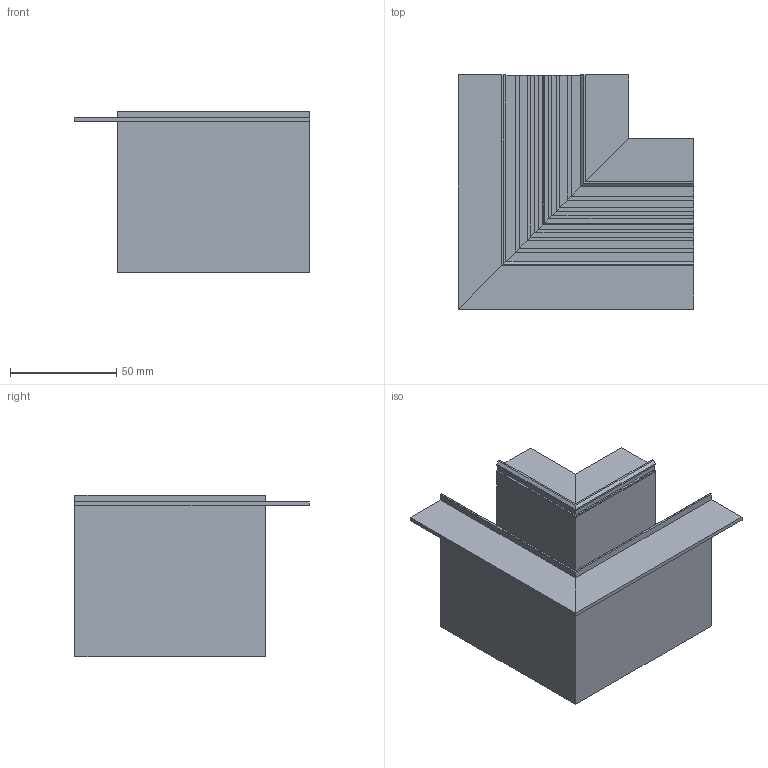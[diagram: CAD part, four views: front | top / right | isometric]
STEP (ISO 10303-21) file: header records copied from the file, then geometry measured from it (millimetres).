
FILE_DESCRIPTION(/* description */ (''),/* implementation_level */ '2;1');
FILE_NAME(/* name */ 'C:\Users\Franco Sartori E\Documents\FARO\DUPLICADO\Modelos\01_Digitalizados\PRIORIZACION 2D\1_NESO\03_Publicación\5020221002.stp',/* time_stamp */ '2021-01-20T10:48:45+01:00',/* author */ ('Franco Sartori E'),/* organization */ (''),/* preprocessor_version */ 'ST-DEVELOPER v18.1',/* originating_system */ 'AutoCAD Mechanical',/* authorisation */ '');
FILE_SCHEMA (('AUTOMOTIVE_DESIGN { 1 0 10303 214 3 1 1 }'));
Length unit declared in the file: millimetre
Products named in the file (2): Product; 5020221002_ 5020221002D - LAMP-510741-Export
Assembly tree (1 placements, depth 2):
  Product
    5020221002_ 5020221002D - LAMP-510741-Export
Bounding box: 110.6 x 110 x 76 mm (x, y, z)
Volume: 85209.5 mm3; surface area: 87903.5 mm2
Topology: 6 solids, 6 shells, 232 faces, 660 edges, 440 vertices
Faces by surface type: plane 216, cylinder 16
Entity records: 7485 total; most frequent: CARTESIAN_POINT 1335, ORIENTED_EDGE 1320, DIRECTION 1162, EDGE_CURVE 660, LINE 628, VECTOR 628, VERTEX_POINT 440, AXIS2_PLACEMENT_3D 267
